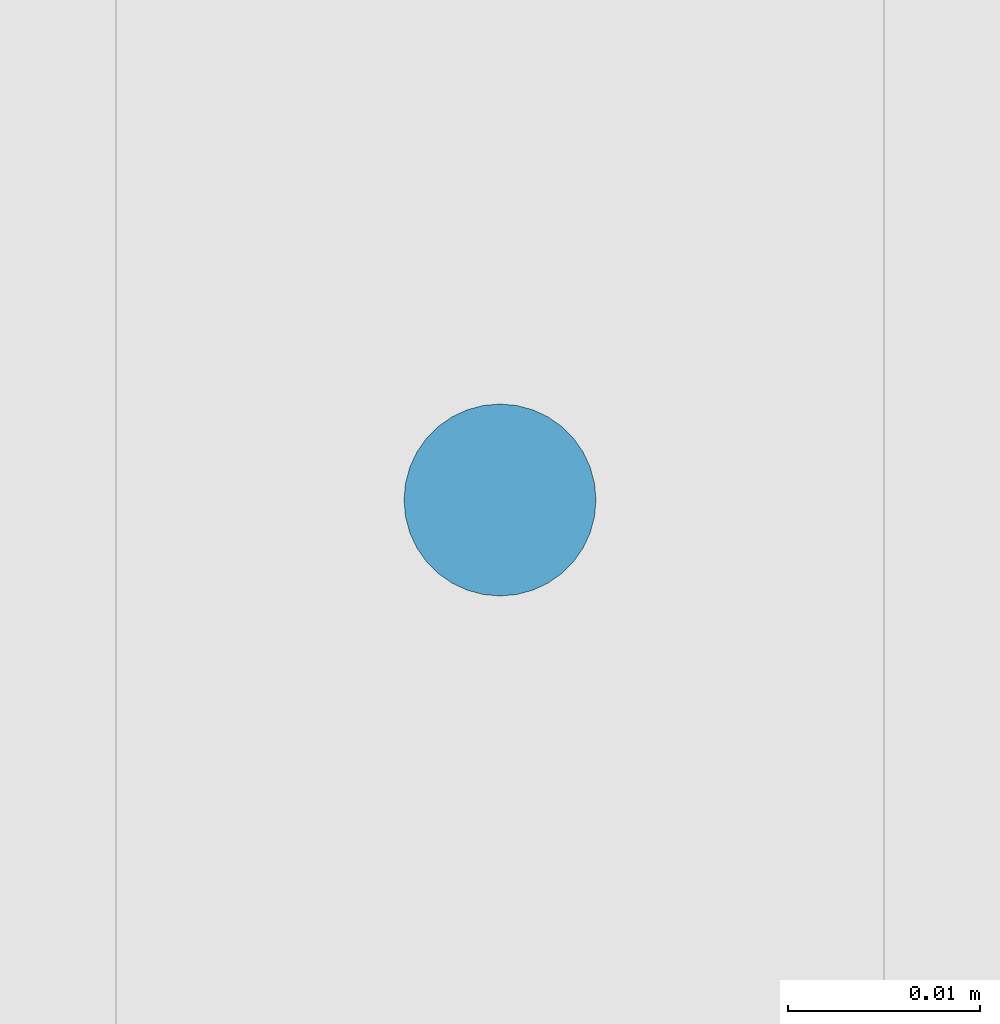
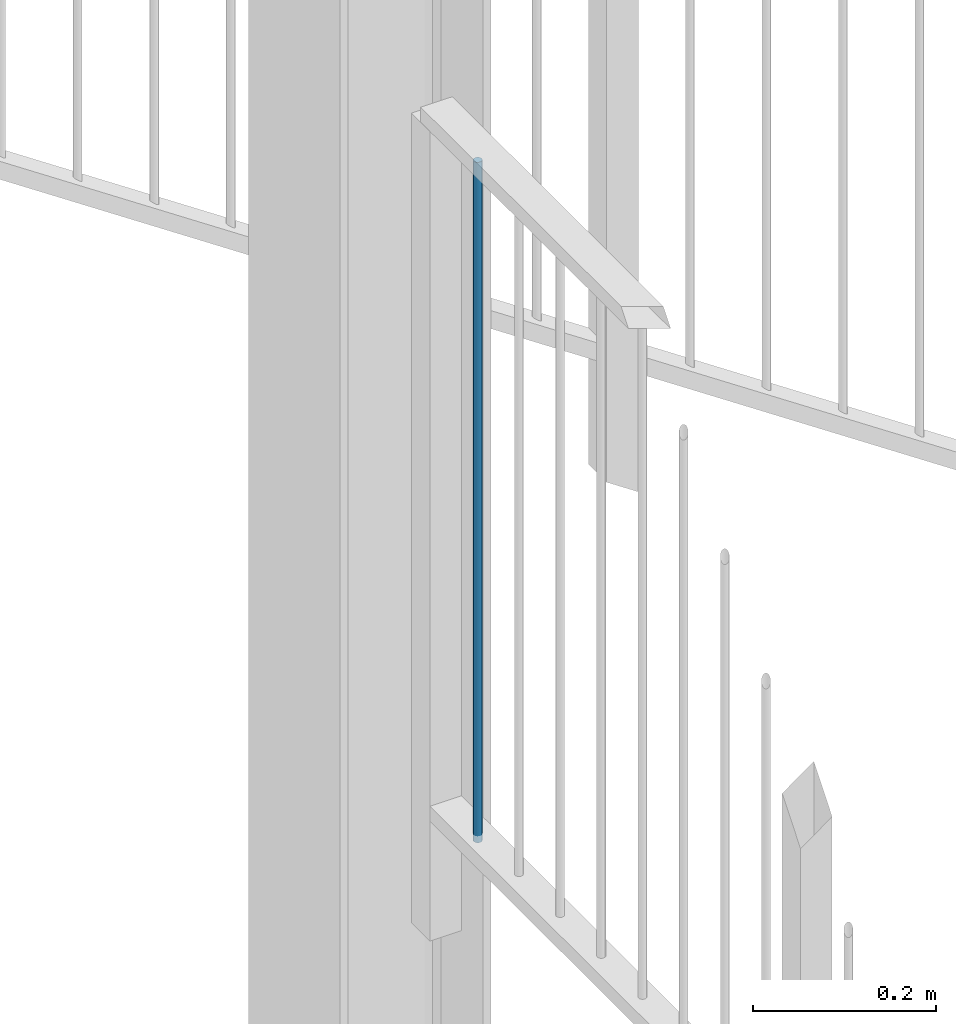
# One storey, part 24 of 135: 1 member, 1 element without a shape of its own.
"""IFC2X3 building model written with IfcOpenShell, lengths in millimetres."""

from ifc_helpers import new_model, entity, si_unit, converted_unit, derived_unit, money_unit, direction, frame, origin_with_axes, place, context, subcontext, project, spatial, faceted_brep, source, transform, mapped, material, type_object, type_shapes, element, aggregate, save


model = new_model("IFC2X3")

# Units and contexts
model_context = context("Model", 3, precision=0.01, world=origin_with_axes(), true_north=direction((0.0, 1.0)))
body_context = subcontext(model_context, "Body", "Model", "MODEL_VIEW")
ifc_project = project(units=[si_unit("LENGTHUNIT", "METRE", prefix="MILLI"), si_unit("AREAUNIT", "SQUARE_METRE"), si_unit("VOLUMEUNIT", "CUBIC_METRE"), converted_unit("PLANEANGLEUNIT", "DEGREE", entity("IfcPlaneAngleMeasure", 0.0174532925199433), si_unit("PLANEANGLEUNIT", "RADIAN"), dimensions=[0, 0, 0, 0, 0, 0, 0]), money_unit("EUR"), converted_unit("TIMEUNIT", "Year", entity("IfcTimeMeasure", 31557600.0), si_unit("TIMEUNIT", "SECOND"), dimensions=[0, 0, 1, 0, 0, 0, 0]), si_unit("MASSUNIT", "GRAM", prefix="KILO"), si_unit("THERMODYNAMICTEMPERATUREUNIT", "DEGREE_CELSIUS"), si_unit("LUMINOUSINTENSITYUNIT", "LUMEN"), si_unit("ENERGYUNIT", "JOULE", prefix="MEGA"), derived_unit("THERMALCONDUCTANCEUNIT", [(si_unit("POWERUNIT", "WATT"), 1), (si_unit("LENGTHUNIT", "METRE"), -1), (si_unit("THERMODYNAMICTEMPERATUREUNIT", "KELVIN"), -1)]), derived_unit("SPECIFICHEATCAPACITYUNIT", [(si_unit("ENERGYUNIT", "JOULE"), 1), (si_unit("MASSUNIT", "GRAM", prefix="KILO"), -1), (si_unit("THERMODYNAMICTEMPERATUREUNIT", "KELVIN"), -1)]), derived_unit("MASSDENSITYUNIT", [(si_unit("MASSUNIT", "GRAM", prefix="KILO"), 1), (si_unit("VOLUMEUNIT", "CUBIC_METRE"), -1)])], contexts=[model_context])

# Site, building, storey
site_placement = place(None, origin_with_axes())
site = spatial("IfcSite", under=ifc_project, at=site_placement, Name="Site", CompositionType="ELEMENT")
building_placement = place(site_placement, origin_with_axes())
building = spatial("IfcBuilding", under=site, at=building_placement, Name="Naam gebouw", CompositionType="ELEMENT")
storey_placement = place(building_placement, origin_with_axes())
storey = spatial("IfcBuildingStorey", under=building, at=storey_placement, Name="Begane grond N", CompositionType="ELEMENT", Elevation=0.0)

# Railing, member
railing_type = type_object("IfcRailingType", Name="Railing Type", PredefinedType="NOTDEFINED")
railing_placement = place(storey_placement, frame((56209.65277777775, 21185.9124251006, 7662.6), z_axis=(0.0, 0.0, 1.0), x_axis=(1.0, 0.0, 0.0)))
railing = element("IfcRailing", 1, at=railing_placement, inside=storey, type_object=railing_type, Name="_Reling-x", PredefinedType="NOTDEFINED")
ifc_material = material(Name="Metaal - Staal C")
member_type = type_object("IfcMemberType", Name="IfcMember", PredefinedType="MEMBER")
shared_shape = source(origin_with_axes(), body_context, "Body", "Brep", [
    faceted_brep([(0.0, -5.0, 0.0), (0.8682408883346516, -4.92403876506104, 0.0), (0.868240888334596, -4.92403876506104, 907.5000000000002), (0.0, -5.0, 907.5000000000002), (-0.868240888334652, -4.92403876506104, 0.0), (-1.710100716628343, -4.698463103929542, 0.0), (-2.500000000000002, -4.330127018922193, 0.0), (-3.213938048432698, -3.830222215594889, 0.0), (-3.830222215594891, -3.213938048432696, 0.0), (-4.330127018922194, -2.5, 0.0), (-4.698463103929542, -1.710100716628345, 0.0), (-4.924038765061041, -0.86824088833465, 0.0), (-5.0, 0.0, 0.0), (-4.92403876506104, 0.8682408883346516, 0.0), (-4.698463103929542, 1.710100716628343, 0.0), (-4.330127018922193, 2.500000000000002, 0.0), (-3.83022221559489, 3.213938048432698, 0.0), (-3.213938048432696, 3.83022221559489, 0.0), (-2.5, 4.330127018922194, 0.0), (-1.710100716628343, 4.698463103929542, 0.0), (-0.8682408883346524, 4.92403876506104, 0.0), (0.0, 5.0, 0.0), (0.8682408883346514, 4.92403876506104, 0.0), (1.710100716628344, 4.698463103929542, 0.0), (2.5, 4.330127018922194, 0.0), (3.213938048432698, 3.83022221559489, 0.0), (3.83022221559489, 3.213938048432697, 0.0), (4.330127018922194, 2.499999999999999, 0.0), (4.698463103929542, 1.710100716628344, 0.0), (4.92403876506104, 0.8682408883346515, 0.0), (5.0, 0.0, 0.0), (4.92403876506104, -0.8682408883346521, 0.0), (4.698463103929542, -1.710100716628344, 0.0), (4.330127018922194, -2.5, 0.0), (3.83022221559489, -3.213938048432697, 0.0), (3.213938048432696, -3.83022221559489, 0.0), (2.5, -4.330127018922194, 0.0), (1.710100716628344, -4.698463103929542, 0.0), (1.710100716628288, -4.698463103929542, 907.5000000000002), (2.499999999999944, -4.330127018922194, 907.5000000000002), (3.213938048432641, -3.83022221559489, 907.5000000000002), (3.830222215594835, -3.213938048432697, 907.5000000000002), (4.330127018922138, -2.5, 907.5000000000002), (4.698463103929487, -1.710100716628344, 907.5000000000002), (4.924038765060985, -0.8682408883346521, 907.5000000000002), (4.999999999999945, 0.0, 907.5000000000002), (4.924038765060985, 0.8682408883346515, 907.5000000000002), (4.698463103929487, 1.710100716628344, 907.5000000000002), (4.330127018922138, 2.499999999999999, 907.5000000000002), (3.830222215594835, 3.213938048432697, 907.5000000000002), (3.213938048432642, 3.83022221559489, 907.5000000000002), (2.499999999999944, 4.330127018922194, 907.5000000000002), (1.710100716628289, 4.698463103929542, 907.5000000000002), (0.8682408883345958, 4.92403876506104, 907.5000000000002), (0.0, 5.0, 907.5000000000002), (-0.868240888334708, 4.92403876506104, 907.5000000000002), (-1.710100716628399, 4.698463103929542, 907.5000000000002), (-2.500000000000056, 4.330127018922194, 907.5000000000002), (-3.213938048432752, 3.83022221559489, 907.5000000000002), (-3.830222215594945, 3.213938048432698, 907.5000000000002), (-4.330127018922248, 2.500000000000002, 907.5000000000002), (-4.698463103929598, 1.710100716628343, 907.5000000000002), (-4.924038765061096, 0.8682408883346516, 907.5000000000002), (-5.000000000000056, 0.0, 907.5000000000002), (-4.924038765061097, -0.86824088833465, 907.5000000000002), (-4.698463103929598, -1.710100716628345, 907.5000000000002), (-4.330127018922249, -2.5, 907.5000000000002), (-3.830222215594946, -3.213938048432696, 907.5000000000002), (-3.213938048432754, -3.830222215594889, 907.5000000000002), (-2.500000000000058, -4.330127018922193, 907.5000000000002), (-1.710100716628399, -4.698463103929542, 907.5000000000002), (-0.8682408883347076, -4.92403876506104, 907.5000000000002)], [[[0, 1, 2, 3]], [[0, 4, 5, 6, 7, 8, 9, 10, 11, 12, 13, 14, 15, 16, 17, 18, 19, 20, 21, 22, 23, 24, 25, 26, 27, 28, 29, 30, 31, 32, 33, 34, 35, 36, 37, 1]], [[1, 37, 38, 2]], [[3, 2, 38, 39, 40, 41, 42, 43, 44, 45, 46, 47, 48, 49, 50, 51, 52, 53, 54, 55, 56, 57, 58, 59, 60, 61, 62, 63, 64, 65, 66, 67, 68, 69, 70, 71]], [[4, 0, 3, 71]], [[5, 4, 71, 70]], [[6, 5, 70, 69]], [[7, 6, 69, 68]], [[8, 7, 68, 67]], [[9, 8, 67, 66]], [[10, 9, 66, 65]], [[11, 10, 65, 64]], [[12, 11, 64, 63]], [[13, 12, 63, 62]], [[14, 13, 62, 61]], [[15, 14, 61, 60]], [[16, 15, 60, 59]], [[17, 16, 59, 58]], [[18, 17, 58, 57]], [[19, 18, 57, 56]], [[20, 19, 56, 55]], [[21, 20, 55, 54]], [[22, 21, 54, 53]], [[23, 22, 53, 52]], [[24, 23, 52, 51]], [[25, 24, 51, 50]], [[26, 25, 50, 49]], [[27, 26, 49, 48]], [[28, 27, 48, 47]], [[29, 28, 47, 46]], [[30, 29, 46, 45]], [[31, 30, 45, 44]], [[32, 31, 44, 43]], [[33, 32, 43, 42]], [[34, 33, 42, 41]], [[35, 34, 41, 40]], [[36, 35, 40, 39]], [[37, 36, 39, 38]]]),
])
type_shapes(member_type, [shared_shape])
member_placement = place(railing_placement, frame((24.99999999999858, 1010.000000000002, 70.00000000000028), z_axis=(0.0, 0.0, 1.0), x_axis=(1.0, 0.0, 0.0)))
member = element("IfcMember", 2, at=member_placement, type_object=member_type, material=ifc_material, Name="_Spijlen-x", ObjectType="MEMBER", context=body_context, shape_type="MappedRepresentation", body=[
    mapped(shared_shape, transform((0.0, 0.0, 0.0))),
])
aggregate(railing, [member])

save(model, "model.ifc")
